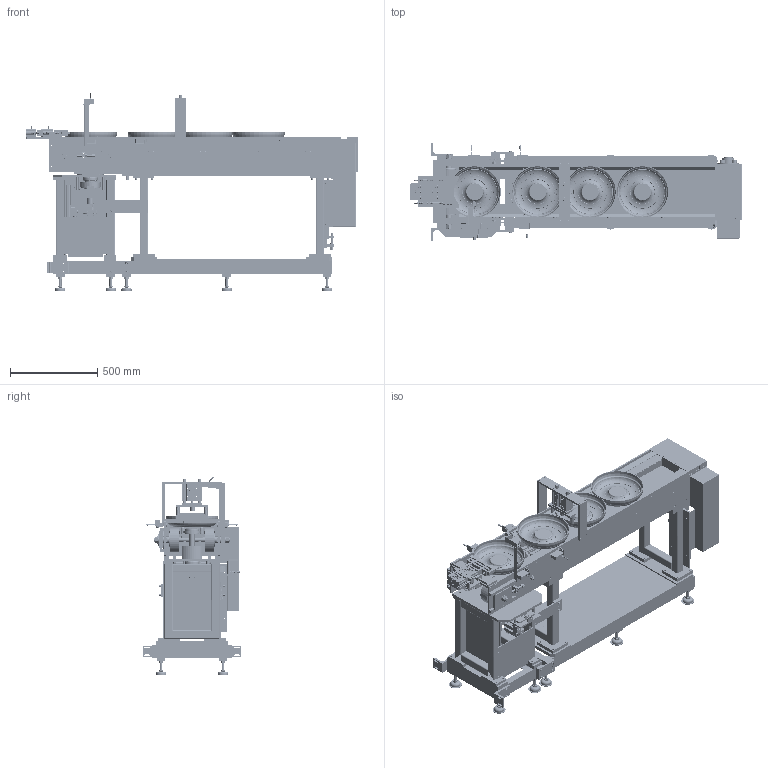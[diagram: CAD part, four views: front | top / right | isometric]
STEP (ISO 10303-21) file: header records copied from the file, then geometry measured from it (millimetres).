
FILE_DESCRIPTION(/* description */ (''),/* implementation_level */ '2;1');
FILE_NAME(/* name */ 'beltconveyor_a078_w250_l1750.stp',/* time_stamp */ '2024-12-31T21:08:40+08:00',/* author */ (''),/* organization */ (''),/* preprocessor_version */ 'ST-DEVELOPER v16.7',/* originating_system */ 'SIEMENS PLM Software NX 12.0',/* authorisation */ '');
FILE_SCHEMA (('AUTOMOTIVE_DESIGN { 1 0 10303 214 3 1 1 1 }'));
Products named in the file (297): JIS 50 x 50 x 2.3 00000001_1; JIS 50 x 50 x 2.3 00000003_3; JIS 50 x 50 x 2.3 00000002_1; JIS 50 x 50 x 2.3 00000004_1; JIS 50 x 50 x 2.3 00000003_4; JIS 50 x 50 x 2.3 00000003; JIS 50 x 50 x 2.3 00000002; JIS 50 x 50 x 2.3 00000001; JIS 50 x 50 x 2.3 00000004; JIS 50 x 50 x 2.3 00000004_2; JIS 50 x 50 x 2.3 00000001_2; JIS 50 x 50 x 2.3 00000002_2; JIS 50 x 50 x 2.3 00000003_2; JIS 75 x 40 x 5 00000002; JIS 75 x 40 x 5 00000001; JIS 75 x 40 x 5 00000004; JIS 75 x 40 x 5 00000005; JIS 75 x 40 x 5 00000003; JIS 75 x 40 x 5 00000001_1; JIS 75 x 40 x 5 00000004_1; JIS 75 x 40 x 5 00000003_1; JIS 75 x 40 x 5 00000002_1; PL012x026KE_X2_30D130EF30ED30C330AF3000_X0_(_X2_693F672C_X0_)3; PL012x026KE_X2_30D130EF30ED30C330AF3000_X0_(_X2_693F672C_X0_)2; PL012x026KE_X2_30D130EF30ED30C330AF3000_X0_(_X2_693F672C_X0_)5; PL012x026KE_X2_30D130EF30ED30C330AF3000_X0_(_X2_693F672C_X0_)1; PL012x026KE_X2_30D130EF30ED30C330AF3000_X0_(_X2_693F672C_X0_)4; 7E73905006-2; 7E73905006-4; 7E73905006-2_1; 7E73905006-3; 7E73905005-6; 7E73905005-2_3; 7E73905005-3; 7E73905005-2_1; 7E73905005-2_2; 7E73905005-2; 7E73905005-6_MIR; 7E73905005-5; KR30H10A+100-0-00A0 _X2_96FB52D530A230AF30C130E530A830FC30BF_X0_ (THK
)_2 ...
Assembly tree (441 placements, depth 7):
  beltconveyor_a078_w250_l1750
    7E73904K01-02
      7E73904021  x10
      7E73904020  x5
      FNCLB-V30-D40-L19.1  x2
      7E73904026  x2
      WSSB20-6-5 _X2_91D15C5E30EF30C330B730E3_X0_ (_X2_30DF30B930DF_X0_)  x10
      _X2_30EF30FC30AF_X0_-BB1LC( D300)  x4
      WSSB35-12-5 _X2_91D15C5E30EF30C330B730E3_X0_ (_X2_30DF30B930DF_X0_)  x2
      7E73904019  x4
      7E73904017
      BJ748-12100  _X2_30AF30E930F330D730DC30EB30C8_X0_(_X2_693F672C_X0_)
        JIS B 1181 C - Metric C  M 12
        JIS B 1180 C - Metric C M12 x 90
      7E73904031  x4
      7E73904033_MIR
      JIS B 1181 - M14x1  x2
      TL250-2-05018-20J _X2_30C830EB30AF30EA30DF30C330BF30FC_X0_ (_X2_693F6
72C_X0_)
        Part4
        JIS B 1177 Flat Point - Metric M4 x 8
        JIS B 1181 M36
        Part1_1
        Washer35w
        Part3
        Part2  x2
      M8-25 _X2_7A744ED8_X0_
      CLBPS30-38-14  x2
      7E73904025  x4
      E39-L144 _X2_30D730E930B130C330C8_X0_ (_X2_30AA30DE30ED30F3_X0_)
      7E73904028  x2
      7E73904015  x2
      JIS B 1256 - 15(3)  x2
      7E73904022  x2
      WSSS30-8-5
      IL-100 CMOS _X2_30EC30FC30B630BB30F330B5300030D830C330C9_X0_ (_X2_30A
D30FC30A830F330B9_X0_)  x4
      JIS B 1251 - No. 2 20 x 5  x2
      MGPM40-50-M9BASBPC _X2_30B730EA30F330C030FC_X0_ (SMC)
        MGPM40-50-M9BASBPC _X2_30B730EA30F330C030FC_X0_ (SMC)_6
        LM 162837N _X2_30EA30CB30A230D630C330B730E5_X0_ (IKO)
        MGPM40-50-M9BASBPC _X2_30B730EA30F330C030FC_X0_ (SMC)_3
        MGPM40-50-M9BASBPC _X2_30B730EA30F330C030FC_X0_ (SMC)_1
        MGPM40-50-M9BASBPC _X2_30B730EA30F330C030FC_X0_ (SMC)_5
        MGPM40-50-M9BASBPC _X2_30B730EA30F330C030FC_X0_ (SMC)_2
        MGPM40-50-M9BASBPC _X2_30B730EA30F330C030FC_X0_ (SMC)_4
      7E73904032
      RF2060S912T-S30B _X2_30ED30C330AF30B930D730ED30B130C330C8_X0_ (_X2_69
3F672C_X0_)  x2
        Chain Drive
          Roller Chain Sprocket2_2
          Roller Chain Sprocket1_2
          Roller Chain_2
        MLSL30
          CB5-20_1  x4
          MLSL-30
      JIS B 1181 - C  M 20  x2
      6006ZZ _X2_6DF16E9D73898EF853D7_X0_ (NTN)  x4
      7E73904033
      10-2.5 (M10)  x2
      SNTBB12-18  x2
      7E73904030
      FWSSB-D40-V30.0-T8.9  x2
Bounding box: 1903.3 x 565 x 1139.55 mm (x, y, z)
Volume: 62228571.7 mm3; surface area: 16889910.3 mm2
Topology: 599 solids, 607 shells, 19224 faces, 47941 edges, 30293 vertices
Faces by surface type: plane 7955, cylinder 6876, cone 1795, torus 1284, extrusion 738, bspline 353, sphere 223
Entity records: 420136 total; most frequent: CARTESIAN_POINT 109496, ORIENTED_EDGE 62620, DIRECTION 62215, EDGE_CURVE 31310, AXIS2_PLACEMENT_3D 22896, VERTEX_POINT 19964, VECTOR 16423, LINE 16054
